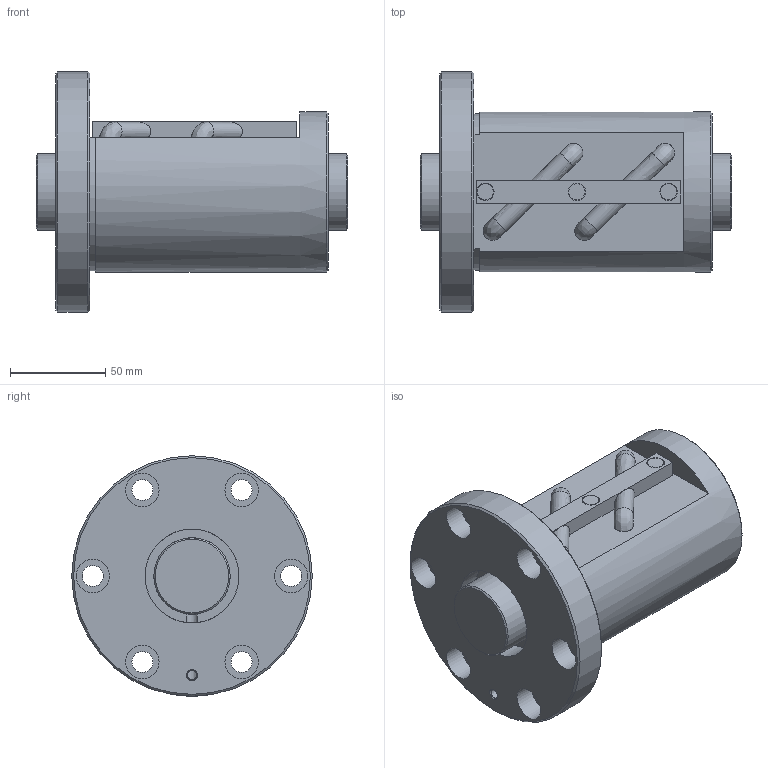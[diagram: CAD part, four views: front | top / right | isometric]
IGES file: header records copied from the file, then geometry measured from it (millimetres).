
Start section: Data from Parasolid IGES Translator 26.0.171, Copyright(c) 2006 Siemens PLM Software. All Rights Reserved.
Global section: file name: BIF4012V-7RRG0+163LC0_000.igs; native system: By Siemens PLM Incorporated; preprocessor: XPlus GENERIC/IGES 26.0.171; author: Noname; organization: Noname; date: 20240715.082436; units: millimetre
Bounding box: 163 x 126 x 126 mm (x, y, z)
Surface area: 112612.7 mm2 (no closed solid volume)
Topology: 0 solids, 0 shells, 91 faces, 428 edges, 393 vertices
Faces by surface type: revolution 48, extrusion 43
